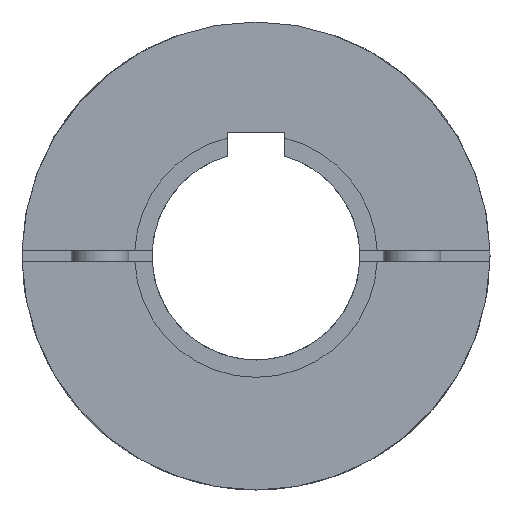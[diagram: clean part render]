
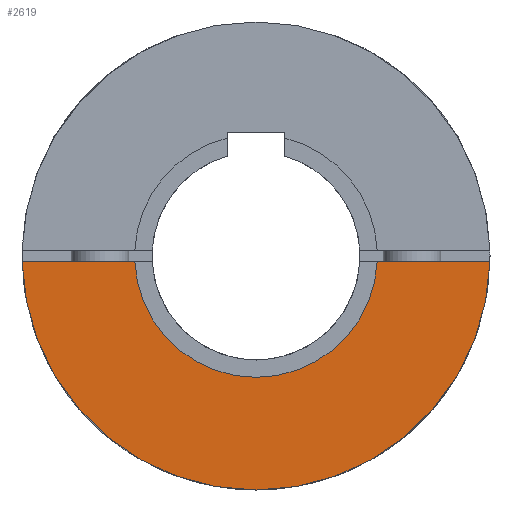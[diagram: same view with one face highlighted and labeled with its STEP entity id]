
A CAD part, left-side view. The second image highlights one B-rep face of the part: STEP entity #2619.
In plain terms, the highlighted planar face has unit normal (-1, 0, 0).
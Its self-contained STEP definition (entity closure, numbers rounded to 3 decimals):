
#114=PLANE('',#2917);
#201=LINE('',#4128,#373);
#259=LINE('',#4554,#431);
#373=VECTOR('',#3259,1000.);
#431=VECTOR('',#3557,1000.);
#623=FACE_OUTER_BOUND('',#794,.T.);
#794=EDGE_LOOP('',(#2130,#2131,#2132,#2133));
#1029=CIRCLE('',#2911,21.);
#1030=CIRCLE('',#2916,40.5);
#1176=VERTEX_POINT('',#4125);
#1177=VERTEX_POINT('',#4127);
#1268=VERTEX_POINT('',#4543);
#1269=VERTEX_POINT('',#4550);
#1468=EDGE_CURVE('',#1177,#1176,#201,.T.);
#1596=EDGE_CURVE('',#1176,#1268,#1029,.T.);
#1598=EDGE_CURVE('',#1269,#1177,#1030,.T.);
#1599=EDGE_CURVE('',#1268,#1269,#259,.T.);
#2130=ORIENTED_EDGE('',*,*,#1598,.T.);
#2131=ORIENTED_EDGE('',*,*,#1468,.T.);
#2132=ORIENTED_EDGE('',*,*,#1596,.T.);
#2133=ORIENTED_EDGE('',*,*,#1599,.T.);
#2619=ADVANCED_FACE('',(#623),#114,.T.);
#2911=AXIS2_PLACEMENT_3D('',#4545,#3542,#3543);
#2916=AXIS2_PLACEMENT_3D('',#4552,#3553,#3554);
#2917=AXIS2_PLACEMENT_3D('',#4553,#3555,#3556);
#3259=DIRECTION('',(0.,1.,0.));
#3542=DIRECTION('center_axis',(1.,0.,0.));
#3543=DIRECTION('ref_axis',(0.,1.,0.));
#3553=DIRECTION('center_axis',(-1.,0.,0.));
#3554=DIRECTION('ref_axis',(0.,1.,0.));
#3555=DIRECTION('center_axis',(-1.,0.,0.));
#3556=DIRECTION('ref_axis',(0.,1.,0.));
#3557=DIRECTION('',(0.,1.,0.));
#4125=CARTESIAN_POINT('',(0.,-20.976,-1.));
#4127=CARTESIAN_POINT('',(0.,-40.488,-1.));
#4128=CARTESIAN_POINT('',(0.,31.,-1.));
#4543=CARTESIAN_POINT('',(0.,20.976,-1.));
#4545=CARTESIAN_POINT('Origin',(0.,0.,0.));
#4550=CARTESIAN_POINT('',(0.,40.488,-1.));
#4552=CARTESIAN_POINT('Origin',(0.,0.,
0.));
#4553=CARTESIAN_POINT('Origin',(0.,0.,
-9.5));
#4554=CARTESIAN_POINT('',(0.,31.,-1.));
